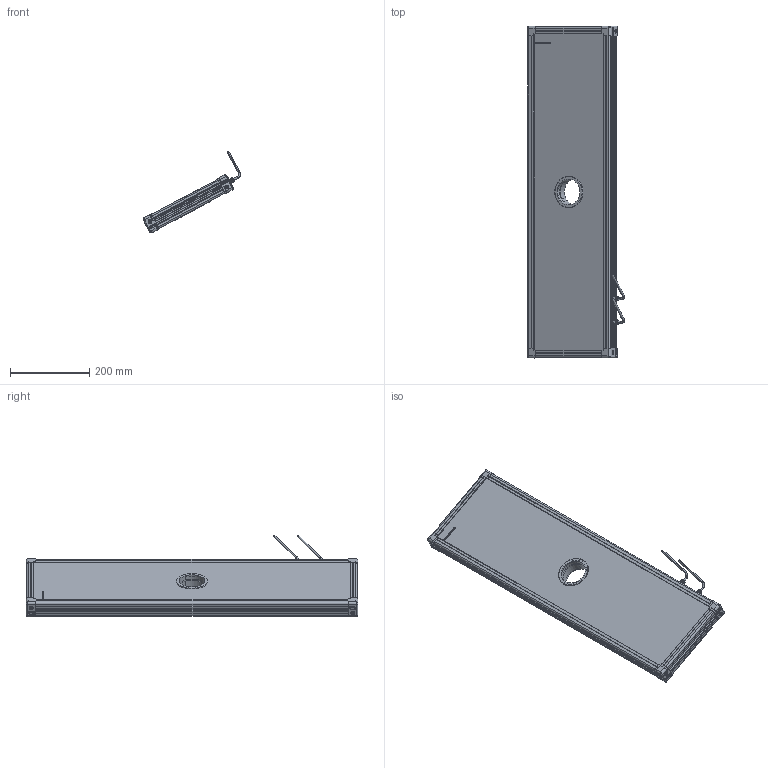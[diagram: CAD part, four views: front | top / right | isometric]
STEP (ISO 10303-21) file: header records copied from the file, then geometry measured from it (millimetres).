
FILE_DESCRIPTION (( 'STEP AP214' ), '1' );
FILE_NAME ('EFFI-FD-200-800-ZZZ-2M12.STEP', '2021-06-23T10:20:15', ( '' ), ( '' ), 'SwSTEP 2.0', 'SolidWorks 2021', '' );
FILE_SCHEMA (( 'AUTOMOTIVE_DESIGN' ));
Length unit declared in the file: millimetre
Products named in the file (13): 004409; 000629; 004408; EFFI-FD-200-800-ZZZ-2M12; 000590; Pièce13^EFFI-FD-XXX-YYY-ZZZ (2 connecteurs) Ø65; cordon_Avec cable; Assemblage Ø65; profile Y_PERCE; petite joue; petite joue + vis; profile X_PERCE
Assembly tree (20 placements, depth 3):
  EFFI-FD-200-800-ZZZ-2M12
    profile X_PERCE  x2
    profile Y_PERCE
    profile Y_PERCE
    Pièce13^EFFI-FD-XXX-YYY-ZZZ (2 connecteurs) Ø65
    petite joue + vis  x4
      petite joue
      000629
    Assemblage Ø65
      004408
      004409
      000590  x3
    cordon_Avec cable  x2
Bounding box: 246.18 x 839 x 206.68 mm (x, y, z)
Volume: 6797023.4 mm3; surface area: 756678.9 mm2
Topology: 22 solids, 34 shells, 4049 faces, 10756 edges, 7058 vertices
Faces by surface type: plane 2496, cylinder 741, bspline 603, cone 156, torus 45, sphere 8
Entity records: 57059 total; most frequent: CARTESIAN_POINT 22766, ORIENTED_EDGE 7140, DIRECTION 5899, EDGE_CURVE 3574, VECTOR 2493, LINE 2493, VERTEX_POINT 2349, AXIS2_PLACEMENT_3D 1703
